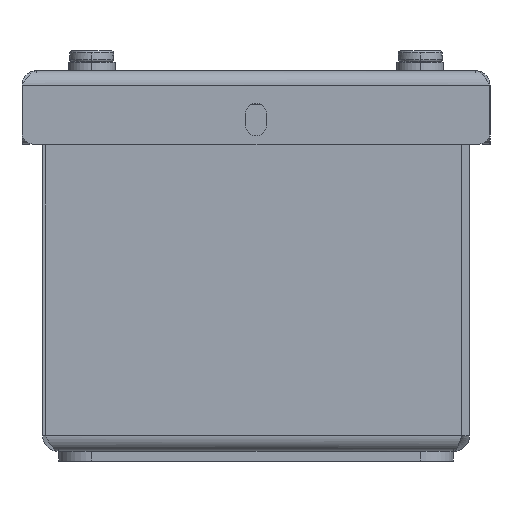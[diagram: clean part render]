
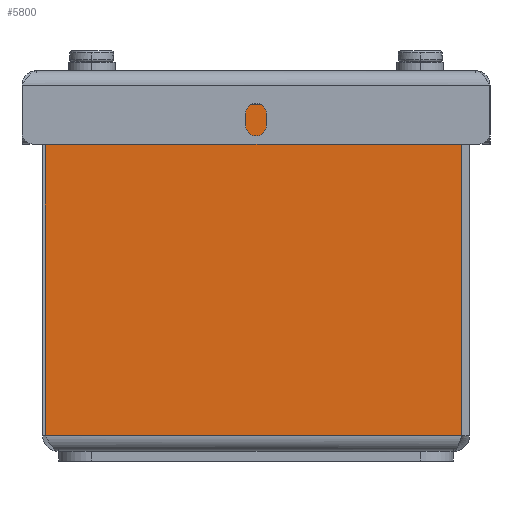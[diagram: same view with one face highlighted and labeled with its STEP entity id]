
A CAD part, left-side view. The second image highlights one B-rep face of the part: STEP entity #5800.
In plain terms, the highlighted planar face has unit normal (-1, 0, 0).
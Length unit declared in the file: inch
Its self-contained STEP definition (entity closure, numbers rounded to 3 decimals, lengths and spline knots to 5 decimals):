
#268=DIRECTION('',(0.,-1.,0.));
#269=VECTOR('',#268,3.168);
#270=CARTESIAN_POINT('',(0.,3.228,0.12));
#271=LINE('',#270,#269);
#1751=DIRECTION('',(0.,-1.,0.));
#1752=VECTOR('',#1751,2.47175);
#1753=CARTESIAN_POINT('',(0.,3.228,2.638));
#1754=LINE('',#1753,#1752);
#1838=DIRECTION('',(0.,0.,1.));
#1839=VECTOR('',#1838,2.518);
#1840=CARTESIAN_POINT('',(0.,3.228,0.12));
#1841=LINE('',#1840,#1839);
#1845=DIRECTION('',(0.,0.,1.));
#1846=VECTOR('',#1845,0.042);
#1847=CARTESIAN_POINT('',(0.,0.75625,2.638));
#1848=LINE('',#1847,#1846);
#1852=DIRECTION('',(0.,1.,0.));
#1853=VECTOR('',#1852,0.65125);
#1854=CARTESIAN_POINT('',(0.,0.105,2.68));
#1855=LINE('',#1854,#1853);
#1859=CARTESIAN_POINT('',(0.,0.105,2.635));
#1860=DIRECTION('',(-1.,0.,0.));
#1861=DIRECTION('',(0.,-1.,0.));
#1862=AXIS2_PLACEMENT_3D('',#1859,#1860,#1861);
#1909=DIRECTION('',(0.,0.,1.));
#1910=VECTOR('',#1909,2.515);
#1911=CARTESIAN_POINT('',(0.,0.06,0.12));
#1912=LINE('',#1911,#1910);
#3620=CARTESIAN_POINT('',(0.,0.75625,2.638));
#3621=CARTESIAN_POINT('',(0.,0.75625,2.68));
#3622=VERTEX_POINT('',#3620);
#3623=VERTEX_POINT('',#3621);
#3748=CARTESIAN_POINT('',(0.,3.228,0.12));
#3749=CARTESIAN_POINT('',(0.,3.228,2.638));
#3750=VERTEX_POINT('',#3748);
#3751=VERTEX_POINT('',#3749);
#3812=CARTESIAN_POINT('',(0.,0.06,2.635));
#3813=CARTESIAN_POINT('',(0.,0.105,2.68));
#3814=VERTEX_POINT('',#3812);
#3815=VERTEX_POINT('',#3813);
#3820=CARTESIAN_POINT('',(0.,0.06,0.12));
#3821=VERTEX_POINT('',#3820);
#5782=CARTESIAN_POINT('',(0.,3.25,0.));
#5783=DIRECTION('',(-1.,0.,0.));
#5784=DIRECTION('',(0.,-1.,0.));
#5785=AXIS2_PLACEMENT_3D('',#5782,#5783,#5784);
#5786=PLANE('',#5785);
#5787=ORIENTED_EDGE('',*,*,#5355,.T.);
#5788=ORIENTED_EDGE('',*,*,#5772,.T.);
#5790=ORIENTED_EDGE('',*,*,#5789,.T.);
#5792=ORIENTED_EDGE('',*,*,#5791,.F.);
#5794=ORIENTED_EDGE('',*,*,#5793,.F.);
#5796=ORIENTED_EDGE('',*,*,#5795,.F.);
#5797=ORIENTED_EDGE('',*,*,#4218,.F.);
#5798=EDGE_LOOP('',(#5787,#5788,#5790,#5792,#5794,#5796,#5797));
#5799=FACE_OUTER_BOUND('',#5798,.F.);
#1863=CIRCLE('',#1862,0.045);
#4218=EDGE_CURVE('',#3750,#3821,#271,.T.);
#5355=EDGE_CURVE('',#3750,#3751,#1841,.T.);
#5772=EDGE_CURVE('',#3751,#3622,#1754,.T.);
#5789=EDGE_CURVE('',#3622,#3623,#1848,.T.);
#5791=EDGE_CURVE('',#3815,#3623,#1855,.T.);
#5793=EDGE_CURVE('',#3814,#3815,#1863,.T.);
#5795=EDGE_CURVE('',#3821,#3814,#1912,.T.);
#5800=ADVANCED_FACE('',(#5799),#5786,.T.);
